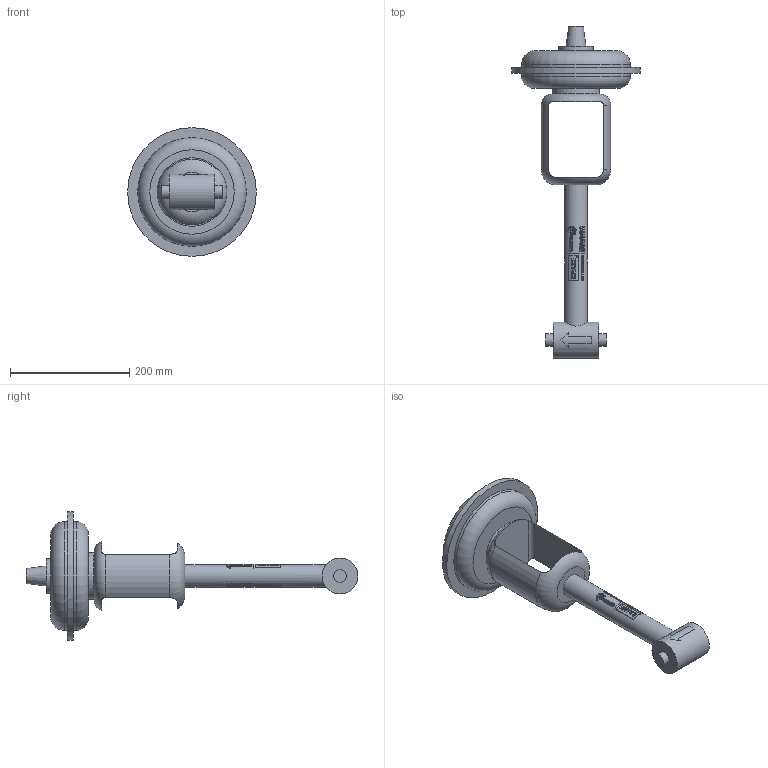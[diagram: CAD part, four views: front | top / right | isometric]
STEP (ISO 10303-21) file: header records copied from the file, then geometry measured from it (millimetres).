
FILE_DESCRIPTION (( 'STEP AP203' ), '1' );
FILE_NAME ('0.5in T-Pattern Pneumatic TF Valve.step', '2025-12-17T20:07:43', ( '' ), ( '' ), 'SwSTEP 2.0', 'SolidWorks 2023', '' );
FILE_SCHEMA (( 'CONFIG_CONTROL_DESIGN' ));
Length unit declared in the file: inch
Products named in the file (1): 0.5in T-Pattern Pneumatic TF Valve
Bounding box: 215.9 x 557.21 x 215.9 mm (x, y, z)
Volume: 2595398.6 mm3; surface area: 230367.7 mm2
Topology: 1 solids, 1 shells, 1177 faces, 3020 edges, 2014 vertices
Faces by surface type: plane 751, cylinder 315, bspline 106, torus 4, cone 1
Full cylindrical faces by diameter (mm): 0.597 x2, 0.654 x2, 0.711 x2, 0.816 x2, 0.921 x2, 1.187 x2, 1.228 x2, 1.363 x2, 1.453 x2, 1.523 x2, 1.604 x2, 1.829 x2, 2.471 x2, 3.052 x2, 3.693 x2, 4.3 x2, 21.336 x2, 38.1 x1, 58.444 x1, 60.325 x1, 78.516 x1, 182.292 x2, 215.9 x1
Entity records: 47803 total; most frequent: CARTESIAN_POINT 21877, ORIENTED_EDGE 5890, DIRECTION 4428, EDGE_CURVE 2945, VERTEX_POINT 2005, VECTOR 1548, LINE 1548, AXIS2_PLACEMENT_3D 1440
